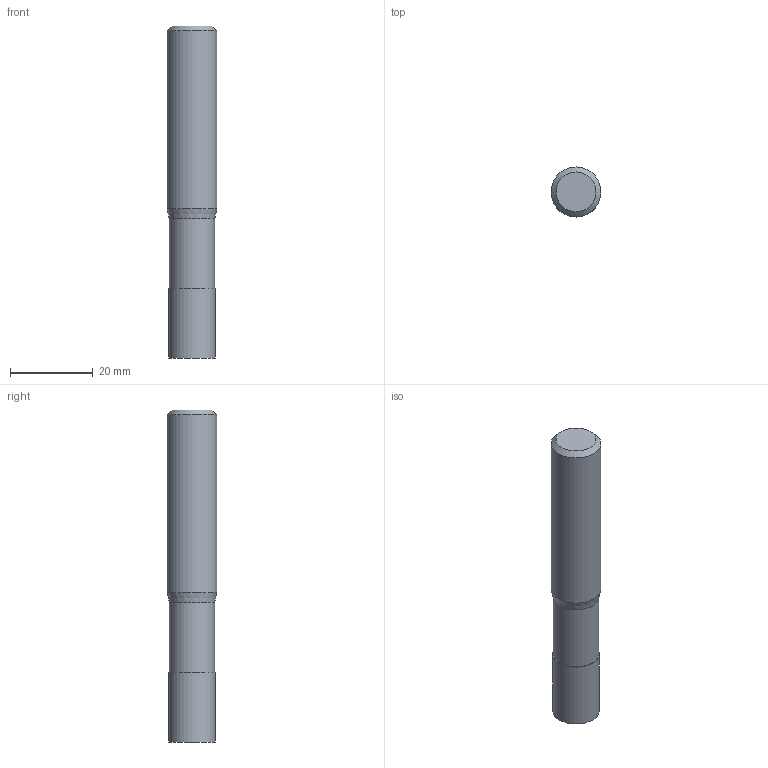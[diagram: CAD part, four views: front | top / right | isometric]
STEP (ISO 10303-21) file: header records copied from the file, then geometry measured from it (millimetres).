
FILE_DESCRIPTION((''),'2;1');
FILE_NAME('C:\Users\nsx150\AppData\Local\Temp\Mastercam 2021\EUJSUNXURU\TEMP.step','2021-04-22T10:30:16',(''),(''),'STEP Write','Mastercam 2021 ... CNC Software, Inc.','');
FILE_SCHEMA(('AUTOMOTIVE_DESIGN'));
Length unit declared in the file: millimetre
Products named in the file (1): None
Bounding box: 12 x 12 x 80 mm (x, y, z)
Volume: 8452.5 mm3; surface area: 3295.9 mm2
Topology: 2 solids, 2 shells, 9 faces, 12 edges, 7 vertices
Faces by surface type: plane 4, cylinder 3, cone 2
Full cylindrical faces by diameter (mm): 11 x1, 11.2 x1, 12 x1
Entity records: 211 total; most frequent: DIRECTION 36, CARTESIAN_POINT 25, AXIS2_PLACEMENT_3D 18, ORIENTED_EDGE 14, EDGE_LOOP 14, STYLED_ITEM 12, ADVANCED_FACE 9, FACE_BOUND 8
